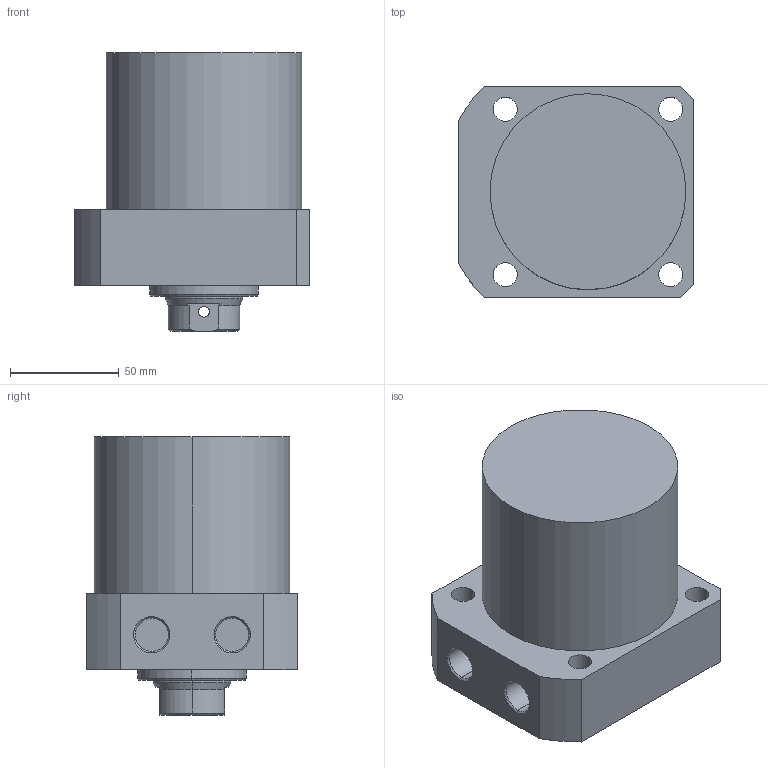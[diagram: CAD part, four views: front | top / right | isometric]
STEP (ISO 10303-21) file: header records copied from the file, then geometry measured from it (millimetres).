
FILE_DESCRIPTION (( 'STEP AP203' ), '1' );
FILE_NAME ('CLLR-090CB-050.STEP', '2019-12-19T02:31:58', ( '' ), ( '' ), 'SwSTEP 2.0', 'SolidWorks 2015', '' );
FILE_SCHEMA (( 'CONFIG_CONTROL_DESIGN' ));
Length unit declared in the file: millimetre
Products named in the file (1): CLLR-090CB-050
Bounding box: 108 x 97 x 128 mm (x, y, z)
Volume: 808058.4 mm3; surface area: 65543.2 mm2
Topology: 1 solids, 1 shells, 67 faces, 161 edges, 102 vertices
Faces by surface type: cylinder 33, plane 19, cone 15
Entity records: 2179 total; most frequent: CARTESIAN_POINT 477, DIRECTION 360, ORIENTED_EDGE 318, EDGE_CURVE 159, AXIS2_PLACEMENT_3D 145, VERTEX_POINT 102, EDGE_LOOP 87, CIRCLE 77
